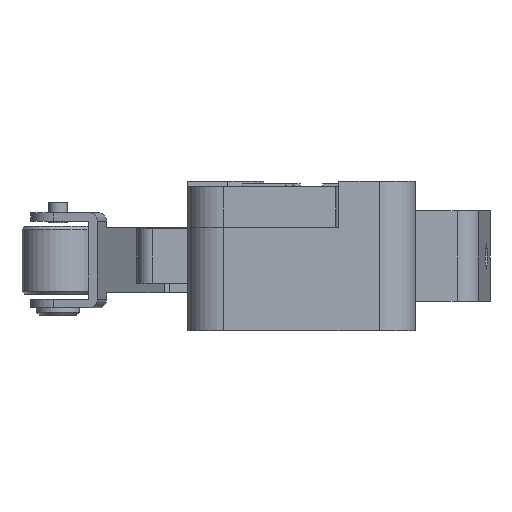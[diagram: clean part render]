
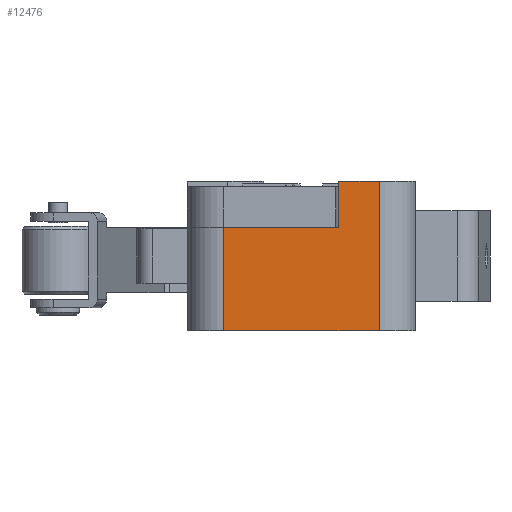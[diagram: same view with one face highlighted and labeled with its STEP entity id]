
A CAD part, left-side view. The second image highlights one B-rep face of the part: STEP entity #12476.
In plain terms, the highlighted planar face has unit normal (-1, 0, 0).
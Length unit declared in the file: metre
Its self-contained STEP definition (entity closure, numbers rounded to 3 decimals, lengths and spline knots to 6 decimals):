
#12136=CARTESIAN_POINT('',(-0.027238,-0.006323,0.022913));
#12137=VERTEX_POINT('',#12136);
#12140=CARTESIAN_POINT('',(-0.027238,-0.006323,0.030113));
#12141=DIRECTION('',(0.,0.,-1.));
#12142=VECTOR('',#12141,1.);
#12143=LINE('',#12140,#12142);
#12144=CARTESIAN_POINT('',(-0.027238,-0.006323,0.030113));
#12145=VERTEX_POINT('',#12144);
#12146=EDGE_CURVE('',#12145,#12137,#12143,.T.);
#12344=CARTESIAN_POINT('',(-0.027238,-0.017123,0.033313));
#12345=VERTEX_POINT('',#12344);
#12379=CARTESIAN_POINT('',(-0.027238,-0.014323,0.033313));
#12380=VERTEX_POINT('',#12379);
#12383=CARTESIAN_POINT('',(-0.027238,-0.014323,0.033313));
#12384=DIRECTION('',(0.,-1.,0.));
#12385=VECTOR('',#12384,1.);
#12386=LINE('',#12383,#12385);
#12387=EDGE_CURVE('',#12380,#12345,#12386,.T.);
#12416=CARTESIAN_POINT('',(-0.027238,-0.017123,0.022913));
#12417=VERTEX_POINT('',#12416);
#12429=CARTESIAN_POINT('',(-0.027238,-0.017123,0.033313));
#12430=DIRECTION('',(0.,0.,-1.));
#12431=VECTOR('',#12430,1.);
#12432=LINE('',#12429,#12431);
#12433=EDGE_CURVE('',#12345,#12417,#12432,.T.);
#12446=CARTESIAN_POINT('',(-0.027238,-0.014323,0.033313));
#12447=DIRECTION('',(1.,0.,0.));
#12448=DIRECTION('',(0.,1.,0.));
#12449=AXIS2_PLACEMENT_3D('',#12446,#12447,#12448);
#12450=PLANE('',#12449);
#12451=CARTESIAN_POINT('',(-0.027238,-0.014323,0.022913));
#12452=DIRECTION('',(0.,-1.,0.));
#12453=VECTOR('',#12452,1.);
#12454=LINE('',#12451,#12453);
#12455=EDGE_CURVE('',#12137,#12417,#12454,.T.);
#12456=ORIENTED_EDGE('',*,*,#12455,.T.);
#12457=ORIENTED_EDGE('',*,*,#12433,.F.);
#12458=ORIENTED_EDGE('',*,*,#12387,.F.);
#12459=CARTESIAN_POINT('',(-0.027238,-0.014323,0.033313));
#12460=DIRECTION('',(0.,0.,-1.));
#12461=VECTOR('',#12460,1.);
#12462=LINE('',#12459,#12461);
#12463=CARTESIAN_POINT('',(-0.027238,-0.014323,0.030113));
#12464=VERTEX_POINT('',#12463);
#12465=EDGE_CURVE('',#12380,#12464,#12462,.T.);
#12466=ORIENTED_EDGE('',*,*,#12465,.T.);
#12467=CARTESIAN_POINT('',(-0.027238,-0.011723,0.030113));
#12468=DIRECTION('',(0.,-1.,0.));
#12469=VECTOR('',#12468,1.);
#12470=LINE('',#12467,#12469);
#12471=EDGE_CURVE('',#12145,#12464,#12470,.T.);
#12472=ORIENTED_EDGE('',*,*,#12471,.F.);
#12473=ORIENTED_EDGE('',*,*,#12146,.T.);
#12474=EDGE_LOOP('',(#12456,#12457,#12458,#12466,#12472,#12473));
#12475=FACE_BOUND('',#12474,.T.);
#12476=ADVANCED_FACE('',(#12475),#12450,.F.);
